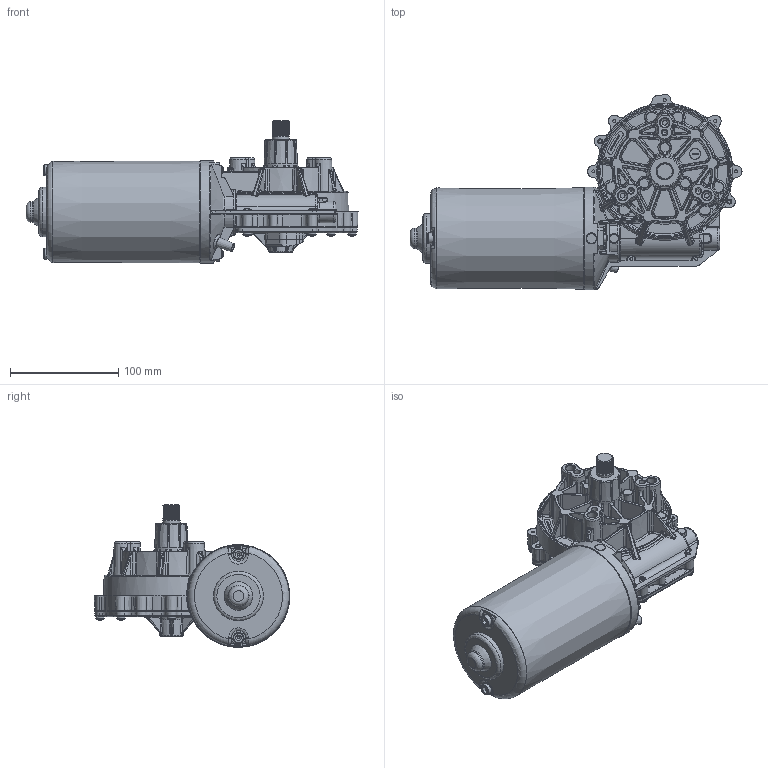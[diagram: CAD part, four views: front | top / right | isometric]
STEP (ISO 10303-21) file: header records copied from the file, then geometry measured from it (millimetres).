
FILE_DESCRIPTION( ( 'Unknown' ), '1' );
FILE_NAME( 'D:/vikranth/Conversion/final_output/final_final/0 986 337 451.stp', 'Unknown', ( 'Unknown' ), ( 'Unknown' ), 'PSStep 15.0.49', 'Unknown', ' ' );
FILE_SCHEMA( ( 'AUTOMOTIVE_DESIGN { 1 0 10303 214 1 1 1 1 }' ) );
Length unit declared in the file: millimetre
Products named in the file (2): Assem1; Default_1
Assembly tree (1 placements, depth 2):
  Assem1
    Default_1
Bounding box: 307.28 x 180.97 x 131.99 mm (x, y, z)
Surface area: 187468.6 mm2 (no closed solid volume)
Topology: 0 solids, 3189 shells, 3189 faces, 16188 edges, 15902 vertices
Faces by surface type: plane 984, bspline 775, cylinder 520, revolution 408, cone 300, extrusion 202
Full cylindrical faces by diameter (mm): 3 x2, 3.2 x1, 3.5 x2, 3.621 x7, 4 x13, 4.2 x5, 4.5 x9, 6 x3, 8.5 x3, 9 x1, 10 x3, 14 x2, 15 x1, 16 x3, 19 x1, 46 x1, 95 x1
Entity records: 247816 total; most frequent: CARTESIAN_POINT 124645, VERTEX_POINT 15828, ORIENTED_EDGE 15820, EDGE_CURVE 15820, DIRECTION 12728, B_SPLINE_CURVE_WITH_KNOTS 8834, VECTOR 4572, LINE 4370
